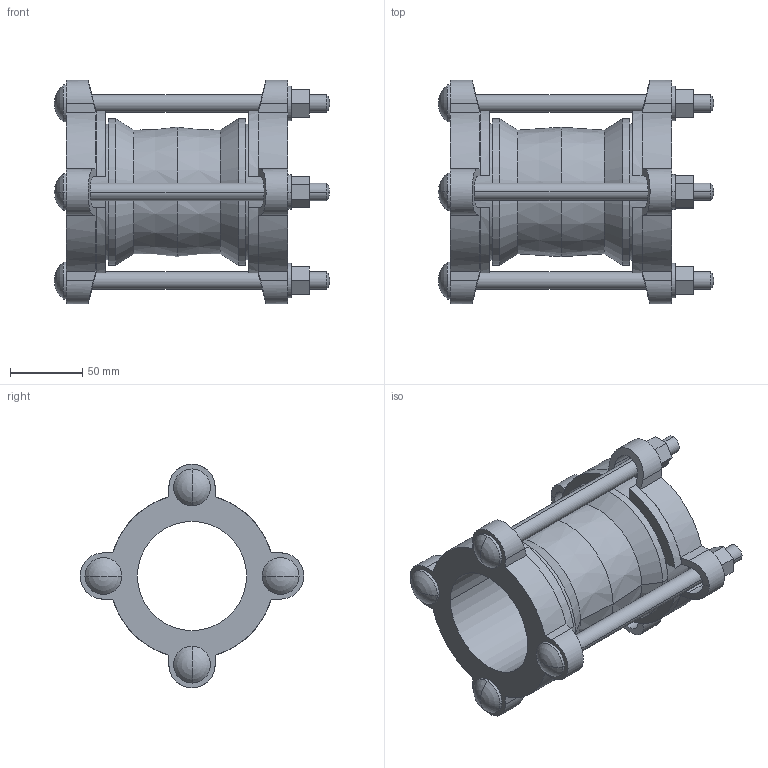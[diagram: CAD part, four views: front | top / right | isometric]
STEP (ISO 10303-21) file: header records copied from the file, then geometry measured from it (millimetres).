
FILE_DESCRIPTION((''),'2;1');
FILE_NAME('BIM_12393_1','2018-09-06T',('MReader'),(''),'CREO PARAMETRIC BY PTC INC, 2016130','CREO PARAMETRIC BY PTC INC, 2016130','');
FILE_SCHEMA(('CONFIG_CONTROL_DESIGN'));
Length unit declared in the file: millimetre
Products named in the file (1): BIM_12393_1
Bounding box: 190.33 x 154.5 x 154.5 mm (x, y, z)
Volume: 619968.2 mm3; surface area: 156657.8 mm2
Topology: 1 solids, 1 shells, 186 faces, 528 edges, 330 vertices
Faces by surface type: plane 92, cylinder 66, sphere 16, cone 12
Entity records: 6315 total; most frequent: CARTESIAN_POINT 1467, ORIENTED_EDGE 1024, DIRECTION 998, EDGE_CURVE 512, AXIS2_PLACEMENT_3D 372, VERTEX_POINT 330, VECTOR 254, LINE 254
